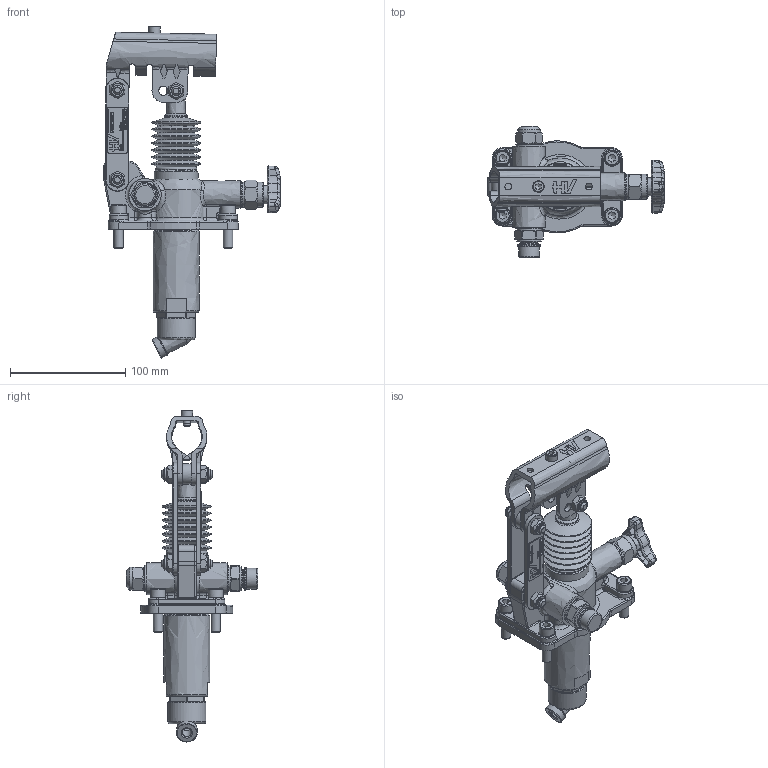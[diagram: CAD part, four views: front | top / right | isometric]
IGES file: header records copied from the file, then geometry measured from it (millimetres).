
Global section: file name: No Iges File Name specified; native system: Autodesk Inventor 2013; preprocessor: AutoDesk Inventor Iges Exporter R2013; author: christian.scardovi; date: 20240228.135656; units: millimetre
Bounding box: 153.5 x 114 x 288.31 mm (x, y, z)
Volume: 428471.4 mm3; surface area: 130058.5 mm2
Topology: 3 solids, 3 shells, 1695 faces, 4253 edges, 2657 vertices
Faces by surface type: bspline 1695
